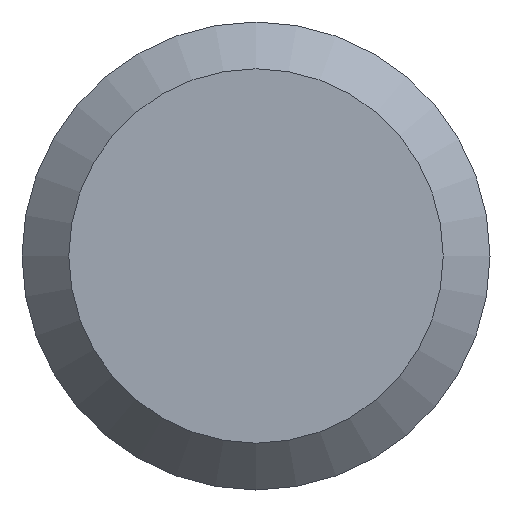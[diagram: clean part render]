
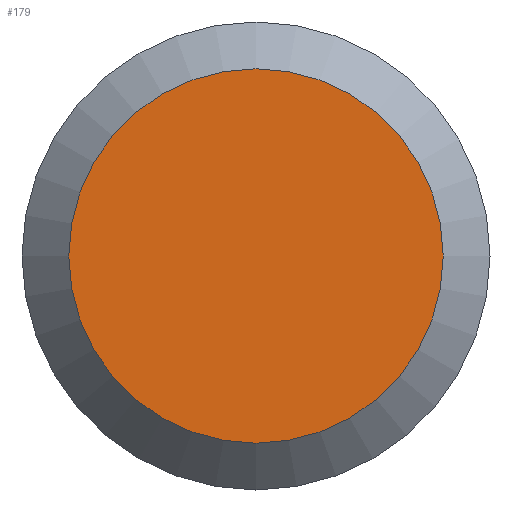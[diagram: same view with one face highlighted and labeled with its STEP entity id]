
A CAD part, left-side view. The second image highlights one B-rep face of the part: STEP entity #179.
In plain terms, the highlighted planar face has unit normal (-1, 0, 0).
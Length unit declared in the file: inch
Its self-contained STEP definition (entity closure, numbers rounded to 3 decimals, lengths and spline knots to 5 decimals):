
#36 = EDGE_LOOP ( 'NONE', ( #53 ) ) ;
#53 = ORIENTED_EDGE ( 'NONE', *, *, #214, .T. ) ;
#60 = PLANE ( 'NONE',  #157 ) ;
#70 = CARTESIAN_POINT ( 'NONE',  ( 0., 0., 0. ) ) ;
#76 = CARTESIAN_POINT ( 'NONE',  ( 0., 0., -0.2 ) ) ;
#92 = DIRECTION ( 'NONE',  ( 0., 0., -1. ) ) ;
#97 = FACE_OUTER_BOUND ( 'NONE', #36, .T. ) ;
#103 = DIRECTION ( 'NONE',  ( -1., 0., 0. ) ) ;
#120 = DIRECTION ( 'NONE',  ( 0., 0., -1. ) ) ;
#132 = CARTESIAN_POINT ( 'NONE',  ( 0., 0.25, 0. ) ) ;
#135 = VERTEX_POINT ( 'NONE', #76 ) ;
#157 = AXIS2_PLACEMENT_3D ( 'NONE', #132, #223, #92 ) ;
#167 = CIRCLE ( 'NONE', #191, 0.2 ) ;
#179 = ADVANCED_FACE ( 'NONE', ( #97 ), #60, .F. ) ;
#191 = AXIS2_PLACEMENT_3D ( 'NONE', #70, #103, #120 ) ;
#214 = EDGE_CURVE ( 'NONE', #135, #135, #167, .T. ) ;
#223 = DIRECTION ( 'NONE',  ( 1., 0., 0. ) ) ;
